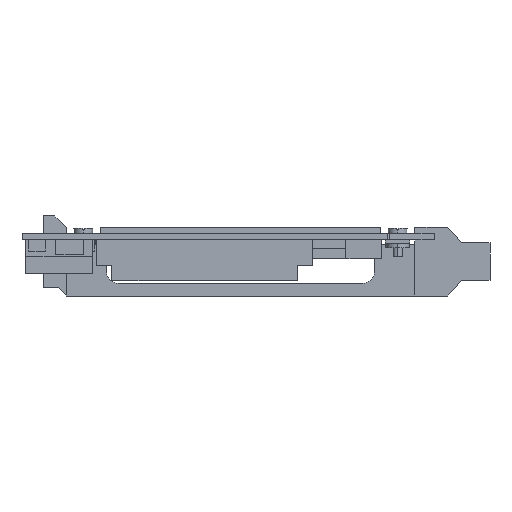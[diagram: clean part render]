
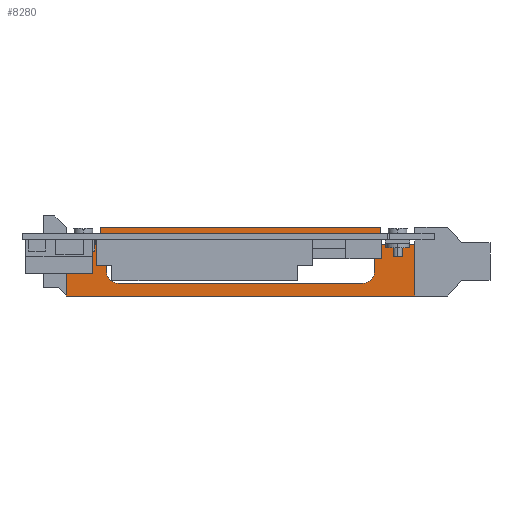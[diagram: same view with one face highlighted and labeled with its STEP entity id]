
A CAD part, left-side view. The second image highlights one B-rep face of the part: STEP entity #8280.
In plain terms, the highlighted planar face has unit normal (-1, 0, 0.001).
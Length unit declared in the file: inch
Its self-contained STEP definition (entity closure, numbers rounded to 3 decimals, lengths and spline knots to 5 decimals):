
#156 = DIRECTION ( 'NONE',  ( -0.001, 0., -1. ) ) ;
#323 = VECTOR ( 'NONE', #3730, 39.37008 ) ;
#544 = VECTOR ( 'NONE', #15556, 39.37008 ) ;
#707 = LINE ( 'NONE', #8623, #4450 ) ;
#824 = CARTESIAN_POINT ( 'NONE',  ( 3.29967, 1.04, -0.34691 ) ) ;
#847 = AXIS2_PLACEMENT_3D ( 'NONE', #5982, #18480, #18284 ) ;
#1090 = CARTESIAN_POINT ( 'NONE',  ( 3.29995, -2.23, -0.04991 ) ) ;
#1095 = ORIENTED_EDGE ( 'NONE', *, *, #6061, .T. ) ;
#1119 = PLANE ( 'NONE',  #847 ) ;
#1175 = CARTESIAN_POINT ( 'NONE',  ( 3.29967, 0.92, -0.34691 ) ) ;
#1209 = ORIENTED_EDGE ( 'NONE', *, *, #3591, .T. ) ;
#1292 = VECTOR ( 'NONE', #8726, 39.37008 ) ;
#1339 = EDGE_CURVE ( 'NONE', #2371, #7898, #3011, .T. ) ;
#1629 = DIRECTION ( 'NONE',  ( 0.001, 0., 1. ) ) ;
#1952 = VECTOR ( 'NONE', #15455, 39.37008 ) ;
#2185 = EDGE_LOOP ( 'NONE', ( #7750, #11405, #12180, #1209, #2734, #10665, #10934, #8244 ) ) ;
#2371 = VERTEX_POINT ( 'NONE', #1090 ) ;
#2440 = LINE ( 'NONE', #19265, #8416 ) ;
#2443 = DIRECTION ( 'NONE',  ( 0., -1., 0. ) ) ;
#2657 = CARTESIAN_POINT ( 'NONE',  ( 3.29995, 1.11, -0.04991 ) ) ;
#2734 = ORIENTED_EDGE ( 'NONE', *, *, #16718, .T. ) ;
#2745 = CARTESIAN_POINT ( 'NONE',  ( 3.30006, 1.04, 0.06309 ) ) ;
#2799 = DIRECTION ( 'NONE',  ( 0., -1., 0. ) ) ;
#2863 = FACE_OUTER_BOUND ( 'NONE', #11471, .T. ) ;
#2970 = VECTOR ( 'NONE', #18794, 39.37008 ) ;
#3011 = LINE ( 'NONE', #9186, #1952 ) ;
#3175 = CARTESIAN_POINT ( 'NONE',  ( 3.29956, 1.04, -0.46691 ) ) ;
#3212 = LINE ( 'NONE', #12360, #4124 ) ;
#3234 = EDGE_CURVE ( 'NONE', #19657, #11454, #15269, .T. ) ;
#3378 = CARTESIAN_POINT ( 'NONE',  ( 3.29967, -1.8, -0.34691 ) ) ;
#3591 = EDGE_CURVE ( 'NONE', #12744, #14771, #17081, .T. ) ;
#3730 = DIRECTION ( 'NONE',  ( 0., -1., 0. ) ) ;
#3832 = DIRECTION ( 'NONE',  ( 0.001, 0., 1. ) ) ;
#3964 = EDGE_CURVE ( 'NONE', #11912, #19657, #15457, .T. ) ;
#4124 = VECTOR ( 'NONE', #7970, 39.37008 ) ;
#4183 = VECTOR ( 'NONE', #13723, 39.37008 ) ;
#4208 = EDGE_CURVE ( 'NONE', #9354, #13623, #15468, .T. ) ;
#4385 = EDGE_CURVE ( 'NONE', #16751, #18662, #3212, .T. ) ;
#4450 = VECTOR ( 'NONE', #16326, 39.37008 ) ;
#5093 = LINE ( 'NONE', #3175, #2970 ) ;
#5309 = AXIS2_PLACEMENT_3D ( 'NONE', #1175, #15140, #14842 ) ;
#5338 = ORIENTED_EDGE ( 'NONE', *, *, #16163, .F. ) ;
#5481 = LINE ( 'NONE', #14874, #1292 ) ;
#5609 = VERTEX_POINT ( 'NONE', #8157 ) ;
#5960 = CARTESIAN_POINT ( 'NONE',  ( 3.29995, 0.92, -0.05691 ) ) ;
#5982 = CARTESIAN_POINT ( 'NONE',  ( 3.30012, 1.47, 0.13009 ) ) ;
#6061 = EDGE_CURVE ( 'NONE', #18662, #16050, #8112, .T. ) ;
#6622 = AXIS2_PLACEMENT_3D ( 'NONE', #5960, #13615, #15167 ) ;
#6949 = CARTESIAN_POINT ( 'NONE',  ( 3.29943, -2.23, -0.59991 ) ) ;
#7652 = EDGE_CURVE ( 'NONE', #2371, #19399, #2440, .T. ) ;
#7703 = CARTESIAN_POINT ( 'NONE',  ( 3.29995, -1.68, -0.05691 ) ) ;
#7750 = ORIENTED_EDGE ( 'NONE', *, *, #15796, .T. ) ;
#7898 = VERTEX_POINT ( 'NONE', #6949 ) ;
#7970 = DIRECTION ( 'NONE',  ( 0., 1., 0. ) ) ;
#8112 = LINE ( 'NONE', #15791, #18201 ) ;
#8157 = CARTESIAN_POINT ( 'NONE',  ( 3.30012, 1.11, 0.13009 ) ) ;
#8244 = ORIENTED_EDGE ( 'NONE', *, *, #17422, .T. ) ;
#8280 = ADVANCED_FACE ( 'NONE', ( #9133, #2863 ), #1119, .F. ) ;
#8416 = VECTOR ( 'NONE', #16205, 39.37008 ) ;
#8623 = CARTESIAN_POINT ( 'NONE',  ( 3.29956, 1.04, -0.46691 ) ) ;
#8726 = DIRECTION ( 'NONE',  ( -0.001, 0., -1. ) ) ;
#8877 = CARTESIAN_POINT ( 'NONE',  ( 3.30006, -1.68, 0.06309 ) ) ;
#9001 = EDGE_CURVE ( 'NONE', #19399, #17358, #16990, .T. ) ;
#9133 = FACE_BOUND ( 'NONE', #2185, .T. ) ;
#9186 = CARTESIAN_POINT ( 'NONE',  ( 3.30012, -2.23, 0.13009 ) ) ;
#9354 = VERTEX_POINT ( 'NONE', #3378 ) ;
#9787 = ORIENTED_EDGE ( 'NONE', *, *, #4385, .T. ) ;
#9990 = CIRCLE ( 'NONE', #19158, 0.12 ) ;
#10449 = CARTESIAN_POINT ( 'NONE',  ( 3.29956, -1.8, -0.46691 ) ) ;
#10596 = LINE ( 'NONE', #12239, #16257 ) ;
#10631 = CARTESIAN_POINT ( 'NONE',  ( 3.29995, 1.04, -0.05691 ) ) ;
#10665 = ORIENTED_EDGE ( 'NONE', *, *, #3964, .T. ) ;
#10927 = CARTESIAN_POINT ( 'NONE',  ( 3.29995, -1.87, -0.04991 ) ) ;
#10934 = ORIENTED_EDGE ( 'NONE', *, *, #3234, .T. ) ;
#11172 = LINE ( 'NONE', #11478, #323 ) ;
#11405 = ORIENTED_EDGE ( 'NONE', *, *, #4208, .T. ) ;
#11454 = VERTEX_POINT ( 'NONE', #8877 ) ;
#11471 = EDGE_LOOP ( 'NONE', ( #19047, #9787, #1095, #16230, #15405, #18293, #19088, #5338 ) ) ;
#11478 = CARTESIAN_POINT ( 'NONE',  ( 3.29943, 1.47, -0.59991 ) ) ;
#11902 = LINE ( 'NONE', #10449, #4183 ) ;
#11912 = VERTEX_POINT ( 'NONE', #10631 ) ;
#12180 = ORIENTED_EDGE ( 'NONE', *, *, #14083, .T. ) ;
#12239 = CARTESIAN_POINT ( 'NONE',  ( 3.30012, 1.47, 0.13009 ) ) ;
#12360 = CARTESIAN_POINT ( 'NONE',  ( 3.29995, 1.47, -0.04991 ) ) ;
#12744 = VERTEX_POINT ( 'NONE', #16593 ) ;
#12877 = CARTESIAN_POINT ( 'NONE',  ( 3.29995, -1.8, -0.05691 ) ) ;
#13084 = VECTOR ( 'NONE', #2443, 39.37008 ) ;
#13085 = CARTESIAN_POINT ( 'NONE',  ( 3.29943, 1.47, -0.59991 ) ) ;
#13234 = CARTESIAN_POINT ( 'NONE',  ( 3.30006, 0.92, 0.06309 ) ) ;
#13615 = DIRECTION ( 'NONE',  ( 1., 0., -0.001 ) ) ;
#13623 = VERTEX_POINT ( 'NONE', #15072 ) ;
#13723 = DIRECTION ( 'NONE',  ( -0.001, 0., -1. ) ) ;
#13952 = DIRECTION ( 'NONE',  ( 1., 0., -0.001 ) ) ;
#14083 = EDGE_CURVE ( 'NONE', #13623, #12744, #5093, .T. ) ;
#14203 = CARTESIAN_POINT ( 'NONE',  ( 3.30012, -1.87, 0.13009 ) ) ;
#14771 = VERTEX_POINT ( 'NONE', #824 ) ;
#14842 = DIRECTION ( 'NONE',  ( 0.001, 0., 1. ) ) ;
#14874 = CARTESIAN_POINT ( 'NONE',  ( 3.30024, 1.11, 0.25009 ) ) ;
#15072 = CARTESIAN_POINT ( 'NONE',  ( 3.29956, -1.68, -0.46691 ) ) ;
#15140 = DIRECTION ( 'NONE',  ( 1., 0., -0.001 ) ) ;
#15167 = DIRECTION ( 'NONE',  ( 0.001, 0., 1. ) ) ;
#15269 = LINE ( 'NONE', #2745, #13084 ) ;
#15405 = ORIENTED_EDGE ( 'NONE', *, *, #1339, .F. ) ;
#15455 = DIRECTION ( 'NONE',  ( -0.001, 0., -1. ) ) ;
#15457 = CIRCLE ( 'NONE', #6622, 0.12 ) ;
#15468 = CIRCLE ( 'NONE', #18089, 0.12 ) ;
#15556 = DIRECTION ( 'NONE',  ( 0.001, 0., 1. ) ) ;
#15791 = CARTESIAN_POINT ( 'NONE',  ( 3.30012, 1.47, 0.13009 ) ) ;
#15796 = EDGE_CURVE ( 'NONE', #15986, #9354, #11902, .T. ) ;
#15986 = VERTEX_POINT ( 'NONE', #12877 ) ;
#16050 = VERTEX_POINT ( 'NONE', #13085 ) ;
#16163 = EDGE_CURVE ( 'NONE', #5609, #17358, #10596, .T. ) ;
#16186 = DIRECTION ( 'NONE',  ( 1., 0., -0.001 ) ) ;
#16205 = DIRECTION ( 'NONE',  ( 0., 1., 0. ) ) ;
#16230 = ORIENTED_EDGE ( 'NONE', *, *, #17738, .T. ) ;
#16257 = VECTOR ( 'NONE', #2799, 39.37008 ) ;
#16326 = DIRECTION ( 'NONE',  ( 0.001, 0., 1. ) ) ;
#16593 = CARTESIAN_POINT ( 'NONE',  ( 3.29956, 0.92, -0.46691 ) ) ;
#16718 = EDGE_CURVE ( 'NONE', #14771, #11912, #707, .T. ) ;
#16751 = VERTEX_POINT ( 'NONE', #2657 ) ;
#16990 = LINE ( 'NONE', #14203, #544 ) ;
#17081 = CIRCLE ( 'NONE', #5309, 0.12 ) ;
#17358 = VERTEX_POINT ( 'NONE', #17703 ) ;
#17422 = EDGE_CURVE ( 'NONE', #11454, #15986, #9990, .T. ) ;
#17563 = EDGE_CURVE ( 'NONE', #5609, #16751, #5481, .T. ) ;
#17703 = CARTESIAN_POINT ( 'NONE',  ( 3.30012, -1.87, 0.13009 ) ) ;
#17738 = EDGE_CURVE ( 'NONE', #16050, #7898, #11172, .T. ) ;
#18089 = AXIS2_PLACEMENT_3D ( 'NONE', #19349, #16186, #3832 ) ;
#18201 = VECTOR ( 'NONE', #156, 39.37008 ) ;
#18284 = DIRECTION ( 'NONE',  ( 0.001, 0., 1. ) ) ;
#18293 = ORIENTED_EDGE ( 'NONE', *, *, #7652, .T. ) ;
#18480 = DIRECTION ( 'NONE',  ( 1., 0., -0.001 ) ) ;
#18662 = VERTEX_POINT ( 'NONE', #18926 ) ;
#18794 = DIRECTION ( 'NONE',  ( 0., 1., 0. ) ) ;
#18926 = CARTESIAN_POINT ( 'NONE',  ( 3.29995, 1.47, -0.04991 ) ) ;
#19047 = ORIENTED_EDGE ( 'NONE', *, *, #17563, .T. ) ;
#19088 = ORIENTED_EDGE ( 'NONE', *, *, #9001, .T. ) ;
#19158 = AXIS2_PLACEMENT_3D ( 'NONE', #7703, #13952, #1629 ) ;
#19265 = CARTESIAN_POINT ( 'NONE',  ( 3.29995, -1.87, -0.04991 ) ) ;
#19349 = CARTESIAN_POINT ( 'NONE',  ( 3.29967, -1.68, -0.34691 ) ) ;
#19399 = VERTEX_POINT ( 'NONE', #10927 ) ;
#19657 = VERTEX_POINT ( 'NONE', #13234 ) ;
